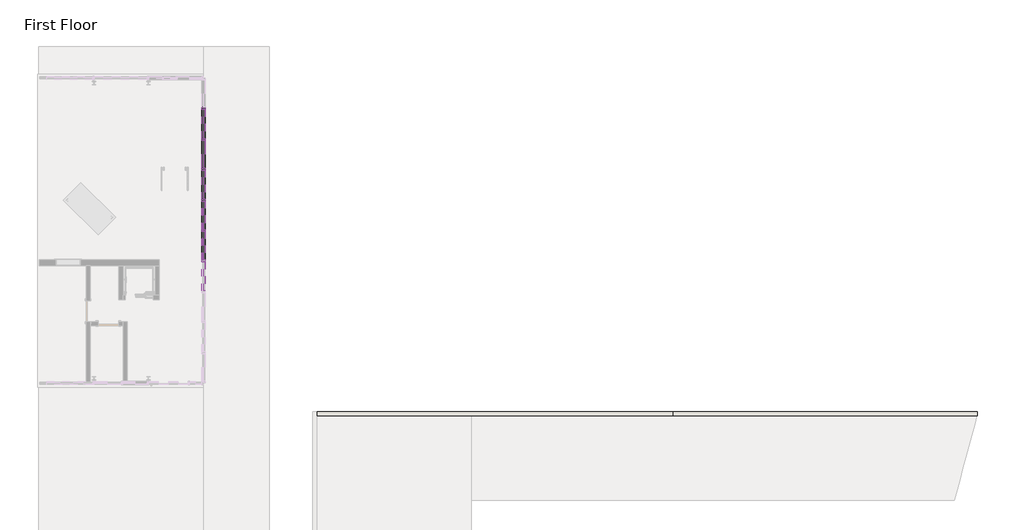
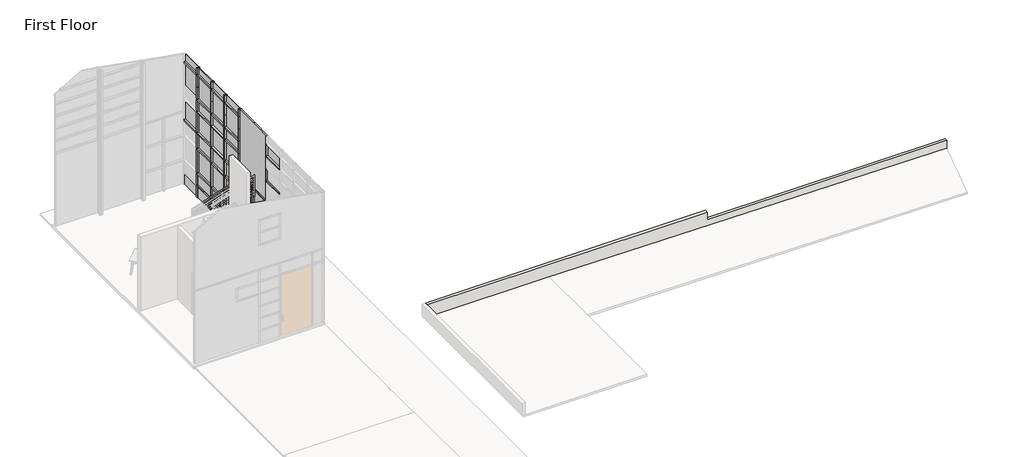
# One storey, part 8 of 9: 75 members, 38 plates, 1 wall.
"""IFC4 building model written with IfcOpenShell, lengths in millimetres."""

from ifc_helpers import new_model, si_unit, frame, origin, place, context, project, spatial, polyline, outline, extrude, transform, mapped, element, save
from components import rectangular_mullion_rectangular_mullion_1_1b5fb080, rectangular_mullion_rectangular_mullion_1_005b3240, rectangular_mullion_rectangular_mullion_1_a5d18ad9, rectangular_mullion_rectangular_mullion_1_91ce8450, rectangular_mullion_rectangular_mullion_1_2b49869a, rectangular_mullion_rectangular_mullion_1_6e77e263, rectangular_mullion_rectangular_mullion_1_8ba1deb4, rectangular_mullion_rectangular_mullion_1_02b6d1f6, rectangular_mullion_rectangular_mullion_1_448be1d6, rectangular_mullion_rectangular_mullion_1_630c41c5, rectangular_mullion_rectangular_mullion_1_239af10d, system_panel_glazed_dbfd7fa9, system_panel_glazed_aee83116, system_panel_glazed_5607b25a, system_panel_glazed_9c783b96, system_panel_glazed_ad6731cb, system_panel_glazed_1dde7ef2, system_panel_glazed_8867470d, system_panel_glazed_5c61df2e, system_panel_glazed_3129fd36, system_panel_glazed_d5e78176, system_panel_glazed_76777b0d, system_panel_glazed_04ba90b8, system_panel_glazed_5164f022, system_panel_glazed_9400200b, system_panel_glazed_5f70e372, system_panel_glazed_1b8c3ea5, system_panel_glazed_cd8bb020, system_panel_glazed_b0dd7fbc, system_panel_glazed_abc00b7b, system_panel_glazed_d8346a96, system_panel_glazed_3e8f1edd, system_panel_glazed_6d5517af, system_panel_glazed_7496b868, system_panel_solid_black_3651c355, system_panel_wood_7a0a0ada, system_panel_solid_white_af15567d, system_panel_wood_cbf360d3, system_panel_wood_a7d880d0, system_panel_wood_ad01dd95, system_panel_wood_72b3a4bc, system_panel_wood_62f12f2f, system_panel_wood_be4c5c0b, system_panel_wood_07726084

model = new_model("IFC4")

# Units and contexts
model_context = context("Model", 3, world=origin())
ifc_project = project(units=[si_unit("LENGTHUNIT", "METRE", prefix="MILLI")], contexts=[model_context])

# Site, building, storey
site = spatial("IfcSite", under=ifc_project)
building = spatial("IfcBuilding", under=site)
storey = spatial("IfcBuildingStorey", under=building, Name="First Floor", Elevation=0.0)

# Members
placement = place(None, origin())
rectangular_mullion_rectangular_mullion_1_shape = rectangular_mullion_rectangular_mullion_1_1b5fb080(model_context)
element("IfcMember", 1, ObjectType="Rectangular Mullion : Rectangular Mullion 1", at=placement, inside=storey, context=model_context, shape_type="MappedRepresentation", body=[
    mapped(rectangular_mullion_rectangular_mullion_1_shape, transform((8.2598336, 31131.3184583, 3223.7891834), x_axis=(0.0, 1.0, 0.0), y_axis=(1.0, 0.0, 0.0), z_axis=(0.0, 0.0, -1.0))),
])
element("IfcMember", 2, ObjectType="Rectangular Mullion : Rectangular Mullion 1", at=placement, inside=storey, context=model_context, shape_type="MappedRepresentation", body=[
    mapped(rectangular_mullion_rectangular_mullion_1_shape, transform((8.2598336, 33374.1384583, 3223.7891834), x_axis=(0.0, 1.0, 0.0), y_axis=(1.0, 0.0, 0.0), z_axis=(0.0, 0.0, -1.0))),
])
element("IfcMember", 3, ObjectType="Rectangular Mullion : Rectangular Mullion 1", at=placement, inside=storey, context=model_context, shape_type="MappedRepresentation", body=[
    mapped(rectangular_mullion_rectangular_mullion_1_shape, transform((8.2598336, 32278.1284583, 3223.7891834), x_axis=(0.0, 1.0, 0.0), y_axis=(1.0, 0.0, 0.0), z_axis=(0.0, 0.0, -1.0))),
])
element("IfcMember", 4, ObjectType="Rectangular Mullion : Rectangular Mullion 1", at=placement, inside=storey, context=model_context, shape_type="MappedRepresentation", body=[
    mapped(rectangular_mullion_rectangular_mullion_1_shape, transform((8.2598336, 34530.4734583, 3223.7891834), x_axis=(0.0, 1.0, 0.0), y_axis=(1.0, 0.0, 0.0), z_axis=(0.0, 0.0, -1.0))),
])
rectangular_mullion_rectangular_mullion_1_2_shape = rectangular_mullion_rectangular_mullion_1_005b3240(model_context)
element("IfcMember", 5, ObjectType="Rectangular Mullion : Rectangular Mullion 1", at=placement, inside=storey, context=model_context, shape_type="MappedRepresentation", body=[
    mapped(rectangular_mullion_rectangular_mullion_1_2_shape, transform((8.2598336, 31131.3184583, 6096.0), x_axis=(0.0, 1.0, 0.0), y_axis=(1.0, 0.0, 0.0), z_axis=(0.0, 0.0, -1.0))),
])
element("IfcMember", 6, ObjectType="Rectangular Mullion : Rectangular Mullion 1", at=placement, inside=storey, context=model_context, shape_type="MappedRepresentation", body=[
    mapped(rectangular_mullion_rectangular_mullion_1_2_shape, transform((8.2598336, 32278.1284583, 6096.0), x_axis=(0.0, 1.0, 0.0), y_axis=(1.0, 0.0, 0.0), z_axis=(0.0, 0.0, -1.0))),
])
element("IfcMember", 7, ObjectType="Rectangular Mullion : Rectangular Mullion 1", at=placement, inside=storey, context=model_context, shape_type="MappedRepresentation", body=[
    mapped(rectangular_mullion_rectangular_mullion_1_2_shape, transform((8.2598336, 33374.1384583, 6096.0), x_axis=(0.0, 1.0, 0.0), y_axis=(1.0, 0.0, 0.0), z_axis=(0.0, 0.0, -1.0))),
])
element("IfcMember", 8, ObjectType="Rectangular Mullion : Rectangular Mullion 1", at=placement, inside=storey, context=model_context, shape_type="MappedRepresentation", body=[
    mapped(rectangular_mullion_rectangular_mullion_1_2_shape, transform((8.2598336, 34530.4734583, 6096.0), x_axis=(0.0, 1.0, 0.0), y_axis=(1.0, 0.0, 0.0), z_axis=(0.0, 0.0, -1.0))),
])
rectangular_mullion_rectangular_mullion_1_3_shape = rectangular_mullion_rectangular_mullion_1_a5d18ad9(model_context)
element("IfcMember", 9, ObjectType="Rectangular Mullion : Rectangular Mullion 1", at=placement, inside=storey, context=model_context, shape_type="MappedRepresentation", body=[
    mapped(rectangular_mullion_rectangular_mullion_1_3_shape, transform((8.2598336, 31131.3184583, 2438.4), x_axis=(0.0, 1.0, 0.0), y_axis=(1.0, 0.0, 0.0), z_axis=(0.0, 0.0, -1.0))),
])
element("IfcMember", 10, ObjectType="Rectangular Mullion : Rectangular Mullion 1", at=placement, inside=storey, context=model_context, shape_type="MappedRepresentation", body=[
    mapped(rectangular_mullion_rectangular_mullion_1_3_shape, transform((8.2598336, 32278.1284583, 2438.4), x_axis=(0.0, 1.0, 0.0), y_axis=(1.0, 0.0, 0.0), z_axis=(0.0, 0.0, -1.0))),
])
element("IfcMember", 11, ObjectType="Rectangular Mullion : Rectangular Mullion 1", at=placement, inside=storey, context=model_context, shape_type="MappedRepresentation", body=[
    mapped(rectangular_mullion_rectangular_mullion_1_3_shape, transform((8.2598336, 33374.1384583, 2438.4), x_axis=(0.0, 1.0, 0.0), y_axis=(1.0, 0.0, 0.0), z_axis=(0.0, 0.0, -1.0))),
])
element("IfcMember", 12, ObjectType="Rectangular Mullion : Rectangular Mullion 1", at=placement, inside=storey, context=model_context, shape_type="MappedRepresentation", body=[
    mapped(rectangular_mullion_rectangular_mullion_1_3_shape, transform((8.2598336, 34530.4734583, 2438.4), x_axis=(0.0, 1.0, 0.0), y_axis=(1.0, 0.0, 0.0), z_axis=(0.0, 0.0, -1.0))),
])
rectangular_mullion_rectangular_mullion_1_4_shape = rectangular_mullion_rectangular_mullion_1_91ce8450(model_context)
element("IfcMember", 13, ObjectType="Rectangular Mullion : Rectangular Mullion 1", at=placement, inside=storey, context=model_context, shape_type="MappedRepresentation", body=[
    mapped(rectangular_mullion_rectangular_mullion_1_4_shape, transform((8.2598336, 30009.9084583, 2438.4), x_axis=(0.0, 1.0, 0.0), y_axis=(1.0, 0.0, 0.0), z_axis=(0.0, 0.0, -1.0))),
])
rectangular_mullion_rectangular_mullion_1_5_shape = rectangular_mullion_rectangular_mullion_1_2b49869a(model_context)
element("IfcMember", 14, ObjectType="Rectangular Mullion : Rectangular Mullion 1", at=placement, inside=storey, context=model_context, shape_type="MappedRepresentation", body=[
    mapped(rectangular_mullion_rectangular_mullion_1_5_shape, transform((8.2598336, 30009.9084583, 1219.2), x_axis=(0.0, 1.0, 0.0), y_axis=(1.0, 0.0, 0.0), z_axis=(0.0, 0.0, -1.0))),
])
element("IfcMember", 15, ObjectType="Rectangular Mullion : Rectangular Mullion 1", at=placement, inside=storey, context=model_context, shape_type="MappedRepresentation", body=[
    mapped(rectangular_mullion_rectangular_mullion_1_5_shape, transform((8.2598336, 31131.3184583, 1219.2), x_axis=(0.0, 1.0, 0.0), y_axis=(1.0, 0.0, 0.0), z_axis=(0.0, 0.0, -1.0))),
])
element("IfcMember", 16, ObjectType="Rectangular Mullion : Rectangular Mullion 1", at=placement, inside=storey, context=model_context, shape_type="MappedRepresentation", body=[
    mapped(rectangular_mullion_rectangular_mullion_1_5_shape, transform((8.2598336, 32278.1284583, 1219.2), x_axis=(0.0, 1.0, 0.0), y_axis=(1.0, 0.0, 0.0), z_axis=(0.0, 0.0, -1.0))),
])
element("IfcMember", 17, ObjectType="Rectangular Mullion : Rectangular Mullion 1", at=placement, inside=storey, context=model_context, shape_type="MappedRepresentation", body=[
    mapped(rectangular_mullion_rectangular_mullion_1_5_shape, transform((8.2598336, 33374.1384583, 1219.2), x_axis=(0.0, 1.0, 0.0), y_axis=(1.0, 0.0, 0.0), z_axis=(0.0, 0.0, -1.0))),
])
element("IfcMember", 18, ObjectType="Rectangular Mullion : Rectangular Mullion 1", at=placement, inside=storey, context=model_context, shape_type="MappedRepresentation", body=[
    mapped(rectangular_mullion_rectangular_mullion_1_5_shape, transform((8.2598336, 34530.4734583, 1219.2), x_axis=(0.0, 1.0, 0.0), y_axis=(1.0, 0.0, 0.0), z_axis=(0.0, 0.0, -1.0))),
])
rectangular_mullion_rectangular_mullion_1_6_shape = rectangular_mullion_rectangular_mullion_1_6e77e263(model_context)
element("IfcMember", 19, ObjectType="Rectangular Mullion : Rectangular Mullion 1", at=placement, inside=storey, context=model_context, shape_type="MappedRepresentation", body=[
    mapped(rectangular_mullion_rectangular_mullion_1_6_shape, transform((8.2598336, 31131.3184583, 0.0), x_axis=(0.0, 1.0, 0.0), y_axis=(1.0, 0.0, 0.0), z_axis=(0.0, 0.0, -1.0))),
])
element("IfcMember", 20, ObjectType="Rectangular Mullion : Rectangular Mullion 1", at=placement, inside=storey, context=model_context, shape_type="MappedRepresentation", body=[
    mapped(rectangular_mullion_rectangular_mullion_1_6_shape, transform((8.2598336, 33374.1384583, 0.0), x_axis=(0.0, 1.0, 0.0), y_axis=(1.0, 0.0, 0.0), z_axis=(0.0, 0.0, -1.0))),
])
element("IfcMember", 21, ObjectType="Rectangular Mullion : Rectangular Mullion 1", at=placement, inside=storey, context=model_context, shape_type="MappedRepresentation", body=[
    mapped(rectangular_mullion_rectangular_mullion_1_6_shape, transform((8.2598336, 30009.9084583, 0.0), x_axis=(0.0, 1.0, 0.0), y_axis=(1.0, 0.0, 0.0), z_axis=(0.0, 0.0, -1.0))),
])
element("IfcMember", 22, ObjectType="Rectangular Mullion : Rectangular Mullion 1", at=placement, inside=storey, context=model_context, shape_type="MappedRepresentation", body=[
    mapped(rectangular_mullion_rectangular_mullion_1_6_shape, transform((8.2598336, 32278.1284583, 0.0), x_axis=(0.0, 1.0, 0.0), y_axis=(1.0, 0.0, 0.0), z_axis=(0.0, 0.0, -1.0))),
])
element("IfcMember", 23, ObjectType="Rectangular Mullion : Rectangular Mullion 1", at=placement, inside=storey, context=model_context, shape_type="MappedRepresentation", body=[
    mapped(rectangular_mullion_rectangular_mullion_1_6_shape, transform((8.2598336, 34530.4734583, 0.0), x_axis=(0.0, 1.0, 0.0), y_axis=(1.0, 0.0, 0.0), z_axis=(0.0, 0.0, -1.0))),
])
element("IfcMember", 24, ObjectType="Rectangular Mullion : Rectangular Mullion 1", at=placement, inside=storey, context=model_context, shape_type="MappedRepresentation", body=[
    mapped(rectangular_mullion_rectangular_mullion_1_6_shape, transform((8.2598336, 30009.9084583, 609.6), x_axis=(0.0, 1.0, 0.0), y_axis=(1.0, 0.0, 0.0), z_axis=(0.0, 0.0, -1.0))),
])
element("IfcMember", 25, ObjectType="Rectangular Mullion : Rectangular Mullion 1", at=placement, inside=storey, context=model_context, shape_type="MappedRepresentation", body=[
    mapped(rectangular_mullion_rectangular_mullion_1_6_shape, transform((8.2598336, 31131.3184583, 609.6), x_axis=(0.0, 1.0, 0.0), y_axis=(1.0, 0.0, 0.0), z_axis=(0.0, 0.0, -1.0))),
])
element("IfcMember", 26, ObjectType="Rectangular Mullion : Rectangular Mullion 1", at=placement, inside=storey, context=model_context, shape_type="MappedRepresentation", body=[
    mapped(rectangular_mullion_rectangular_mullion_1_6_shape, transform((8.2598336, 32278.1284583, 609.6), x_axis=(0.0, 1.0, 0.0), y_axis=(1.0, 0.0, 0.0), z_axis=(0.0, 0.0, -1.0))),
])
element("IfcMember", 27, ObjectType="Rectangular Mullion : Rectangular Mullion 1", at=placement, inside=storey, context=model_context, shape_type="MappedRepresentation", body=[
    mapped(rectangular_mullion_rectangular_mullion_1_6_shape, transform((8.2598336, 33374.1384583, 609.6), x_axis=(0.0, 1.0, 0.0), y_axis=(1.0, 0.0, 0.0), z_axis=(0.0, 0.0, -1.0))),
])
element("IfcMember", 28, ObjectType="Rectangular Mullion : Rectangular Mullion 1", at=placement, inside=storey, context=model_context, shape_type="MappedRepresentation", body=[
    mapped(rectangular_mullion_rectangular_mullion_1_6_shape, transform((8.2598336, 34530.4734583, 609.6), x_axis=(0.0, 1.0, 0.0), y_axis=(1.0, 0.0, 0.0), z_axis=(0.0, 0.0, -1.0))),
])
element("IfcMember", 29, ObjectType="Rectangular Mullion : Rectangular Mullion 1", at=placement, inside=storey, context=model_context, shape_type="MappedRepresentation", body=[
    mapped(rectangular_mullion_rectangular_mullion_1_6_shape, transform((8.2598336, 28888.4984583, 4267.2), x_axis=(0.0, 1.0, 0.0), y_axis=(1.0, 0.0, 0.0), z_axis=(0.0, 0.0, -1.0))),
])
element("IfcMember", 30, ObjectType="Rectangular Mullion : Rectangular Mullion 1", at=placement, inside=storey, context=model_context, shape_type="MappedRepresentation", body=[
    mapped(rectangular_mullion_rectangular_mullion_1_6_shape, transform((8.2598336, 31131.3184583, 4267.2), x_axis=(0.0, 1.0, 0.0), y_axis=(1.0, 0.0, 0.0), z_axis=(0.0, 0.0, -1.0))),
])
element("IfcMember", 31, ObjectType="Rectangular Mullion : Rectangular Mullion 1", at=placement, inside=storey, context=model_context, shape_type="MappedRepresentation", body=[
    mapped(rectangular_mullion_rectangular_mullion_1_6_shape, transform((8.2598336, 32278.1284583, 4267.2), x_axis=(0.0, 1.0, 0.0), y_axis=(1.0, 0.0, 0.0), z_axis=(0.0, 0.0, -1.0))),
])
element("IfcMember", 32, ObjectType="Rectangular Mullion : Rectangular Mullion 1", at=placement, inside=storey, context=model_context, shape_type="MappedRepresentation", body=[
    mapped(rectangular_mullion_rectangular_mullion_1_6_shape, transform((8.2598336, 33374.1384583, 4267.2), x_axis=(0.0, 1.0, 0.0), y_axis=(1.0, 0.0, 0.0), z_axis=(0.0, 0.0, -1.0))),
])
element("IfcMember", 33, ObjectType="Rectangular Mullion : Rectangular Mullion 1", at=placement, inside=storey, context=model_context, shape_type="MappedRepresentation", body=[
    mapped(rectangular_mullion_rectangular_mullion_1_6_shape, transform((8.2598336, 34530.4734583, 4267.2), x_axis=(0.0, 1.0, 0.0), y_axis=(1.0, 0.0, 0.0), z_axis=(0.0, 0.0, -1.0))),
])
element("IfcMember", 34, ObjectType="Rectangular Mullion : Rectangular Mullion 1", at=placement, inside=storey, context=model_context, shape_type="MappedRepresentation", body=[
    mapped(rectangular_mullion_rectangular_mullion_1_6_shape, transform((8.2598336, 28888.4984583, 5486.4), x_axis=(0.0, 1.0, 0.0), y_axis=(1.0, 0.0, 0.0), z_axis=(0.0, 0.0, -1.0))),
])
element("IfcMember", 35, ObjectType="Rectangular Mullion : Rectangular Mullion 1", at=placement, inside=storey, context=model_context, shape_type="MappedRepresentation", body=[
    mapped(rectangular_mullion_rectangular_mullion_1_6_shape, transform((8.2598336, 31131.3184583, 4876.8), x_axis=(0.0, 1.0, 0.0), y_axis=(1.0, 0.0, 0.0), z_axis=(0.0, 0.0, -1.0))),
])
element("IfcMember", 36, ObjectType="Rectangular Mullion : Rectangular Mullion 1", at=placement, inside=storey, context=model_context, shape_type="MappedRepresentation", body=[
    mapped(rectangular_mullion_rectangular_mullion_1_6_shape, transform((8.2598336, 32278.1284583, 4876.8), x_axis=(0.0, 1.0, 0.0), y_axis=(1.0, 0.0, 0.0), z_axis=(0.0, 0.0, -1.0))),
])
element("IfcMember", 37, ObjectType="Rectangular Mullion : Rectangular Mullion 1", at=placement, inside=storey, context=model_context, shape_type="MappedRepresentation", body=[
    mapped(rectangular_mullion_rectangular_mullion_1_6_shape, transform((8.2598336, 33374.1384583, 4876.8), x_axis=(0.0, 1.0, 0.0), y_axis=(1.0, 0.0, 0.0), z_axis=(0.0, 0.0, -1.0))),
])
element("IfcMember", 38, ObjectType="Rectangular Mullion : Rectangular Mullion 1", at=placement, inside=storey, context=model_context, shape_type="MappedRepresentation", body=[
    mapped(rectangular_mullion_rectangular_mullion_1_6_shape, transform((8.2598336, 34530.4734583, 4876.8), x_axis=(0.0, 1.0, 0.0), y_axis=(1.0, 0.0, 0.0), z_axis=(0.0, 0.0, -1.0))),
])
element("IfcMember", 39, ObjectType="Rectangular Mullion : Rectangular Mullion 1", at=placement, inside=storey, context=model_context, shape_type="MappedRepresentation", body=[
    mapped(rectangular_mullion_rectangular_mullion_1_6_shape, transform((8.2598336, 31131.3184583, 5486.4), x_axis=(0.0, 1.0, 0.0), y_axis=(1.0, 0.0, 0.0), z_axis=(0.0, 0.0, -1.0))),
])
element("IfcMember", 40, ObjectType="Rectangular Mullion : Rectangular Mullion 1", at=placement, inside=storey, context=model_context, shape_type="MappedRepresentation", body=[
    mapped(rectangular_mullion_rectangular_mullion_1_6_shape, transform((8.2598336, 32278.1284583, 5486.4), x_axis=(0.0, 1.0, 0.0), y_axis=(1.0, 0.0, 0.0), z_axis=(0.0, 0.0, -1.0))),
])
element("IfcMember", 41, ObjectType="Rectangular Mullion : Rectangular Mullion 1", at=placement, inside=storey, context=model_context, shape_type="MappedRepresentation", body=[
    mapped(rectangular_mullion_rectangular_mullion_1_6_shape, transform((8.2598336, 33374.1384583, 5486.4), x_axis=(0.0, 1.0, 0.0), y_axis=(1.0, 0.0, 0.0), z_axis=(0.0, 0.0, -1.0))),
])
element("IfcMember", 42, ObjectType="Rectangular Mullion : Rectangular Mullion 1", at=placement, inside=storey, context=model_context, shape_type="MappedRepresentation", body=[
    mapped(rectangular_mullion_rectangular_mullion_1_6_shape, transform((8.2598336, 34530.4734583, 5486.4), x_axis=(0.0, 1.0, 0.0), y_axis=(1.0, 0.0, 0.0), z_axis=(0.0, 0.0, -1.0))),
])
rectangular_mullion_rectangular_mullion_1_7_shape = rectangular_mullion_rectangular_mullion_1_8ba1deb4(model_context)
element("IfcMember", 43, ObjectType="Rectangular Mullion : Rectangular Mullion 1", at=placement, inside=storey, context=model_context, shape_type="MappedRepresentation", body=[
    mapped(rectangular_mullion_rectangular_mullion_1_7_shape, transform((8.2598336, 33342.3884583, 3223.7891834), x_axis=(0.0, 0.0, 1.0), y_axis=(1.0, 0.0, 0.0), z_axis=(0.0, 1.0, 0.0))),
])
element("IfcMember", 44, ObjectType="Rectangular Mullion : Rectangular Mullion 1", at=placement, inside=storey, context=model_context, shape_type="MappedRepresentation", body=[
    mapped(rectangular_mullion_rectangular_mullion_1_7_shape, transform((8.2598336, 33342.3884583, 6096.0), x_axis=(0.0, 0.0, 1.0), y_axis=(1.0, 0.0, 0.0), z_axis=(0.0, 1.0, 0.0))),
])
element("IfcMember", 45, ObjectType="Rectangular Mullion : Rectangular Mullion 1", at=placement, inside=storey, context=model_context, shape_type="MappedRepresentation", body=[
    mapped(rectangular_mullion_rectangular_mullion_1_7_shape, transform((8.2598336, 33342.3884583, 4876.8), x_axis=(0.0, 0.0, 1.0), y_axis=(1.0, 0.0, 0.0), z_axis=(0.0, 1.0, 0.0))),
])
element("IfcMember", 46, ObjectType="Rectangular Mullion : Rectangular Mullion 1", at=placement, inside=storey, context=model_context, shape_type="MappedRepresentation", body=[
    mapped(rectangular_mullion_rectangular_mullion_1_7_shape, transform((8.2598336, 33342.3884583, 2438.4), x_axis=(0.0, 0.0, 1.0), y_axis=(1.0, 0.0, 0.0), z_axis=(0.0, 1.0, 0.0))),
])
element("IfcMember", 47, ObjectType="Rectangular Mullion : Rectangular Mullion 1", at=placement, inside=storey, context=model_context, shape_type="MappedRepresentation", body=[
    mapped(rectangular_mullion_rectangular_mullion_1_7_shape, transform((8.2598336, 33342.3884583, 1219.2), x_axis=(0.0, 0.0, 1.0), y_axis=(1.0, 0.0, 0.0), z_axis=(0.0, 1.0, 0.0))),
])
element("IfcMember", 48, ObjectType="Rectangular Mullion : Rectangular Mullion 1", at=placement, inside=storey, context=model_context, shape_type="MappedRepresentation", body=[
    mapped(rectangular_mullion_rectangular_mullion_1_7_shape, transform((8.2598336, 33342.3884583, 609.6), x_axis=(0.0, 0.0, 1.0), y_axis=(1.0, 0.0, 0.0), z_axis=(0.0, 1.0, 0.0))),
])
element("IfcMember", 49, ObjectType="Rectangular Mullion : Rectangular Mullion 1", at=placement, inside=storey, context=model_context, shape_type="MappedRepresentation", body=[
    mapped(rectangular_mullion_rectangular_mullion_1_7_shape, transform((8.2598336, 33342.3884583, 4267.2), x_axis=(0.0, 0.0, 1.0), y_axis=(1.0, 0.0, 0.0), z_axis=(0.0, 1.0, 0.0))),
])
rectangular_mullion_rectangular_mullion_1_8_shape = rectangular_mullion_rectangular_mullion_1_02b6d1f6(model_context)
element("IfcMember", 50, ObjectType="Rectangular Mullion : Rectangular Mullion 1", at=placement, inside=storey, context=model_context, shape_type="MappedRepresentation", body=[
    mapped(rectangular_mullion_rectangular_mullion_1_8_shape, transform((8.2598336, 32246.3784583, 3223.7891834), x_axis=(0.0, 0.0, 1.0), y_axis=(1.0, 0.0, 0.0), z_axis=(0.0, 1.0, 0.0))),
])
element("IfcMember", 51, ObjectType="Rectangular Mullion : Rectangular Mullion 1", at=placement, inside=storey, context=model_context, shape_type="MappedRepresentation", body=[
    mapped(rectangular_mullion_rectangular_mullion_1_8_shape, transform((8.2598336, 32246.3784583, 6096.0), x_axis=(0.0, 0.0, 1.0), y_axis=(1.0, 0.0, 0.0), z_axis=(0.0, 1.0, 0.0))),
])
element("IfcMember", 52, ObjectType="Rectangular Mullion : Rectangular Mullion 1", at=placement, inside=storey, context=model_context, shape_type="MappedRepresentation", body=[
    mapped(rectangular_mullion_rectangular_mullion_1_8_shape, transform((8.2598336, 32246.3784583, 4876.8), x_axis=(0.0, 0.0, 1.0), y_axis=(1.0, 0.0, 0.0), z_axis=(0.0, 1.0, 0.0))),
])
element("IfcMember", 53, ObjectType="Rectangular Mullion : Rectangular Mullion 1", at=placement, inside=storey, context=model_context, shape_type="MappedRepresentation", body=[
    mapped(rectangular_mullion_rectangular_mullion_1_8_shape, transform((8.2598336, 32246.3784583, 2438.4), x_axis=(0.0, 0.0, 1.0), y_axis=(1.0, 0.0, 0.0), z_axis=(0.0, 1.0, 0.0))),
])
element("IfcMember", 54, ObjectType="Rectangular Mullion : Rectangular Mullion 1", at=placement, inside=storey, context=model_context, shape_type="MappedRepresentation", body=[
    mapped(rectangular_mullion_rectangular_mullion_1_8_shape, transform((8.2598336, 32246.3784583, 1219.2), x_axis=(0.0, 0.0, 1.0), y_axis=(1.0, 0.0, 0.0), z_axis=(0.0, 1.0, 0.0))),
])
element("IfcMember", 55, ObjectType="Rectangular Mullion : Rectangular Mullion 1", at=placement, inside=storey, context=model_context, shape_type="MappedRepresentation", body=[
    mapped(rectangular_mullion_rectangular_mullion_1_8_shape, transform((8.2598336, 32246.3784583, 609.6), x_axis=(0.0, 0.0, 1.0), y_axis=(1.0, 0.0, 0.0), z_axis=(0.0, 1.0, 0.0))),
])
element("IfcMember", 56, ObjectType="Rectangular Mullion : Rectangular Mullion 1", at=placement, inside=storey, context=model_context, shape_type="MappedRepresentation", body=[
    mapped(rectangular_mullion_rectangular_mullion_1_8_shape, transform((8.2598336, 28856.7484583, 4267.2), x_axis=(0.0, 0.0, 1.0), y_axis=(1.0, 0.0, 0.0), z_axis=(0.0, 1.0, 0.0))),
])
element("IfcMember", 57, ObjectType="Rectangular Mullion : Rectangular Mullion 1", at=placement, inside=storey, context=model_context, shape_type="MappedRepresentation", body=[
    mapped(rectangular_mullion_rectangular_mullion_1_8_shape, transform((8.2598336, 32246.3784583, 4267.2), x_axis=(0.0, 0.0, 1.0), y_axis=(1.0, 0.0, 0.0), z_axis=(0.0, 1.0, 0.0))),
])
element("IfcMember", 58, ObjectType="Rectangular Mullion : Rectangular Mullion 1", at=placement, inside=storey, context=model_context, shape_type="MappedRepresentation", body=[
    mapped(rectangular_mullion_rectangular_mullion_1_8_shape, transform((8.2598336, 28856.7484583, 5486.4), x_axis=(0.0, 0.0, 1.0), y_axis=(1.0, 0.0, 0.0), z_axis=(0.0, 1.0, 0.0))),
])
rectangular_mullion_rectangular_mullion_1_9_shape = rectangular_mullion_rectangular_mullion_1_448be1d6(model_context)
element("IfcMember", 59, ObjectType="Rectangular Mullion : Rectangular Mullion 1", at=placement, inside=storey, context=model_context, shape_type="MappedRepresentation", body=[
    mapped(rectangular_mullion_rectangular_mullion_1_9_shape, transform((8.2598336, 35585.2084583, 3223.7891834), x_axis=(0.0, 0.0, 1.0), y_axis=(1.0, 0.0, 0.0), z_axis=(0.0, 1.0, 0.0))),
])
element("IfcMember", 60, ObjectType="Rectangular Mullion : Rectangular Mullion 1", at=placement, inside=storey, context=model_context, shape_type="MappedRepresentation", body=[
    mapped(rectangular_mullion_rectangular_mullion_1_9_shape, transform((8.2598336, 35585.2084583, 6096.0), x_axis=(0.0, 0.0, 1.0), y_axis=(1.0, 0.0, 0.0), z_axis=(0.0, 1.0, 0.0))),
])
rectangular_mullion_rectangular_mullion_1_10_shape = rectangular_mullion_rectangular_mullion_1_630c41c5(model_context)
element("IfcMember", 61, ObjectType="Rectangular Mullion : Rectangular Mullion 1", at=placement, inside=storey, context=model_context, shape_type="MappedRepresentation", body=[
    mapped(rectangular_mullion_rectangular_mullion_1_10_shape, transform((8.2598336, 29978.1584583, 3223.7891834), x_axis=(0.0, 0.0, 1.0), y_axis=(1.0, 0.0, 0.0), z_axis=(0.0, 1.0, 0.0))),
])
element("IfcMember", 62, ObjectType="Rectangular Mullion : Rectangular Mullion 1", at=placement, inside=storey, context=model_context, shape_type="MappedRepresentation", body=[
    mapped(rectangular_mullion_rectangular_mullion_1_10_shape, transform((8.2598336, 31099.5684583, 3223.7891834), x_axis=(0.0, 0.0, 1.0), y_axis=(1.0, 0.0, 0.0), z_axis=(0.0, 1.0, 0.0))),
])
element("IfcMember", 63, ObjectType="Rectangular Mullion : Rectangular Mullion 1", at=placement, inside=storey, context=model_context, shape_type="MappedRepresentation", body=[
    mapped(rectangular_mullion_rectangular_mullion_1_10_shape, transform((8.2598336, 29978.1584583, 2438.4), x_axis=(0.0, 0.0, 1.0), y_axis=(1.0, 0.0, 0.0), z_axis=(0.0, 1.0, 0.0))),
])
element("IfcMember", 64, ObjectType="Rectangular Mullion : Rectangular Mullion 1", at=placement, inside=storey, context=model_context, shape_type="MappedRepresentation", body=[
    mapped(rectangular_mullion_rectangular_mullion_1_10_shape, transform((8.2598336, 31099.5684583, 2438.4), x_axis=(0.0, 0.0, 1.0), y_axis=(1.0, 0.0, 0.0), z_axis=(0.0, 1.0, 0.0))),
])
element("IfcMember", 65, ObjectType="Rectangular Mullion : Rectangular Mullion 1", at=placement, inside=storey, context=model_context, shape_type="MappedRepresentation", body=[
    mapped(rectangular_mullion_rectangular_mullion_1_10_shape, transform((8.2598336, 29978.1584583, 1219.2), x_axis=(0.0, 0.0, 1.0), y_axis=(1.0, 0.0, 0.0), z_axis=(0.0, 1.0, 0.0))),
])
element("IfcMember", 66, ObjectType="Rectangular Mullion : Rectangular Mullion 1", at=placement, inside=storey, context=model_context, shape_type="MappedRepresentation", body=[
    mapped(rectangular_mullion_rectangular_mullion_1_10_shape, transform((8.2598336, 31099.5684583, 1219.2), x_axis=(0.0, 0.0, 1.0), y_axis=(1.0, 0.0, 0.0), z_axis=(0.0, 1.0, 0.0))),
])
element("IfcMember", 67, ObjectType="Rectangular Mullion : Rectangular Mullion 1", at=placement, inside=storey, context=model_context, shape_type="MappedRepresentation", body=[
    mapped(rectangular_mullion_rectangular_mullion_1_10_shape, transform((8.2598336, 29978.1584583, 609.6), x_axis=(0.0, 0.0, 1.0), y_axis=(1.0, 0.0, 0.0), z_axis=(0.0, 1.0, 0.0))),
])
element("IfcMember", 68, ObjectType="Rectangular Mullion : Rectangular Mullion 1", at=placement, inside=storey, context=model_context, shape_type="MappedRepresentation", body=[
    mapped(rectangular_mullion_rectangular_mullion_1_10_shape, transform((8.2598336, 31099.5684583, 609.6), x_axis=(0.0, 0.0, 1.0), y_axis=(1.0, 0.0, 0.0), z_axis=(0.0, 1.0, 0.0))),
])
rectangular_mullion_rectangular_mullion_1_11_shape = rectangular_mullion_rectangular_mullion_1_239af10d(model_context)
element("IfcMember", 69, ObjectType="Rectangular Mullion : Rectangular Mullion 1", at=placement, inside=storey, context=model_context, shape_type="MappedRepresentation", body=[
    mapped(rectangular_mullion_rectangular_mullion_1_11_shape, transform((8.2598336, 34498.7234583, 3223.7891834), x_axis=(0.0, 0.0, 1.0), y_axis=(1.0, 0.0, 0.0), z_axis=(0.0, 1.0, 0.0))),
])
element("IfcMember", 70, ObjectType="Rectangular Mullion : Rectangular Mullion 1", at=placement, inside=storey, context=model_context, shape_type="MappedRepresentation", body=[
    mapped(rectangular_mullion_rectangular_mullion_1_11_shape, transform((8.2598336, 34498.7234583, 6096.0), x_axis=(0.0, 0.0, 1.0), y_axis=(1.0, 0.0, 0.0), z_axis=(0.0, 1.0, 0.0))),
])
element("IfcMember", 71, ObjectType="Rectangular Mullion : Rectangular Mullion 1", at=placement, inside=storey, context=model_context, shape_type="MappedRepresentation", body=[
    mapped(rectangular_mullion_rectangular_mullion_1_11_shape, transform((8.2598336, 34498.7234583, 4876.8), x_axis=(0.0, 0.0, 1.0), y_axis=(1.0, 0.0, 0.0), z_axis=(0.0, 1.0, 0.0))),
])
element("IfcMember", 72, ObjectType="Rectangular Mullion : Rectangular Mullion 1", at=placement, inside=storey, context=model_context, shape_type="MappedRepresentation", body=[
    mapped(rectangular_mullion_rectangular_mullion_1_11_shape, transform((8.2598336, 34498.7234583, 2438.4), x_axis=(0.0, 0.0, 1.0), y_axis=(1.0, 0.0, 0.0), z_axis=(0.0, 1.0, 0.0))),
])
element("IfcMember", 73, ObjectType="Rectangular Mullion : Rectangular Mullion 1", at=placement, inside=storey, context=model_context, shape_type="MappedRepresentation", body=[
    mapped(rectangular_mullion_rectangular_mullion_1_11_shape, transform((8.2598336, 34498.7234583, 1219.2), x_axis=(0.0, 0.0, 1.0), y_axis=(1.0, 0.0, 0.0), z_axis=(0.0, 1.0, 0.0))),
])
element("IfcMember", 74, ObjectType="Rectangular Mullion : Rectangular Mullion 1", at=placement, inside=storey, context=model_context, shape_type="MappedRepresentation", body=[
    mapped(rectangular_mullion_rectangular_mullion_1_11_shape, transform((8.2598336, 34498.7234583, 609.6), x_axis=(0.0, 0.0, 1.0), y_axis=(1.0, 0.0, 0.0), z_axis=(0.0, 1.0, 0.0))),
])
element("IfcMember", 75, ObjectType="Rectangular Mullion : Rectangular Mullion 1", at=placement, inside=storey, context=model_context, shape_type="MappedRepresentation", body=[
    mapped(rectangular_mullion_rectangular_mullion_1_11_shape, transform((8.2598336, 34498.7234583, 4267.2), x_axis=(0.0, 0.0, 1.0), y_axis=(1.0, 0.0, 0.0), z_axis=(0.0, 1.0, 0.0))),
])

# Plates
system_panel_glazed_shape = system_panel_glazed_dbfd7fa9(model_context)
element("IfcPlate", 76, ObjectType="System Panel : Glazed", at=placement, inside=storey, context=model_context, shape_type="MappedRepresentation", body=[
    mapped(system_panel_glazed_shape, transform((8.2598336, 31704.7234583, 3255.5391834), x_axis=(0.0, 1.0, 0.0), y_axis=(-1.0, 0.0, 0.0), z_axis=(0.0, 0.0, 1.0))),
])
system_panel_glazed_2_shape = system_panel_glazed_aee83116(model_context)
element("IfcPlate", 77, ObjectType="System Panel : Glazed", at=placement, inside=storey, context=model_context, shape_type="MappedRepresentation", body=[
    mapped(system_panel_glazed_2_shape, transform((8.2598336, 33952.3059583, 3255.5391834), x_axis=(0.0, 1.0, 0.0), y_axis=(-1.0, 0.0, 0.0), z_axis=(0.0, 0.0, 1.0))),
])
system_panel_glazed_3_shape = system_panel_glazed_5607b25a(model_context)
element("IfcPlate", 78, ObjectType="System Panel : Glazed", at=placement, inside=storey, context=model_context, shape_type="MappedRepresentation", body=[
    mapped(system_panel_glazed_3_shape, transform((8.2598336, 32826.1334583, 3255.5391834), x_axis=(0.0, 1.0, 0.0), y_axis=(-1.0, 0.0, 0.0), z_axis=(0.0, 0.0, 1.0))),
])
system_panel_glazed_4_shape = system_panel_glazed_9c783b96(model_context)
element("IfcPlate", 79, ObjectType="System Panel : Glazed", at=placement, inside=storey, context=model_context, shape_type="MappedRepresentation", body=[
    mapped(system_panel_glazed_4_shape, transform((8.2598336, 35073.7159583, 3255.5391834), x_axis=(0.0, 1.0, 0.0), y_axis=(-1.0, 0.0, 0.0), z_axis=(0.0, 0.0, 1.0))),
])
system_panel_glazed_5_shape = system_panel_glazed_ad6731cb(model_context)
element("IfcPlate", 80, ObjectType="System Panel : Glazed", at=placement, inside=storey, context=model_context, shape_type="MappedRepresentation", body=[
    mapped(system_panel_glazed_5_shape, transform((8.2598336, 35073.7159583, 6127.75), x_axis=(0.0, 1.0, 0.0), y_axis=(-1.0, 0.0, 0.0), z_axis=(0.0, 0.0, 1.0))),
])
system_panel_glazed_6_shape = system_panel_glazed_1dde7ef2(model_context)
element("IfcPlate", 81, ObjectType="System Panel : Glazed", at=placement, inside=storey, context=model_context, shape_type="MappedRepresentation", body=[
    mapped(system_panel_glazed_6_shape, transform((8.2598336, 33952.3059583, 6127.75), x_axis=(0.0, 1.0, 0.0), y_axis=(-1.0, 0.0, 0.0), z_axis=(0.0, 0.0, 1.0))),
])
system_panel_glazed_7_shape = system_panel_glazed_8867470d(model_context)
element("IfcPlate", 82, ObjectType="System Panel : Glazed", at=placement, inside=storey, context=model_context, shape_type="MappedRepresentation", body=[
    mapped(system_panel_glazed_7_shape, transform((8.2598336, 32826.1334583, 6127.75), x_axis=(0.0, 1.0, 0.0), y_axis=(-1.0, 0.0, 0.0), z_axis=(0.0, 0.0, 1.0))),
])
system_panel_glazed_8_shape = system_panel_glazed_5c61df2e(model_context)
element("IfcPlate", 83, ObjectType="System Panel : Glazed", at=placement, inside=storey, context=model_context, shape_type="MappedRepresentation", body=[
    mapped(system_panel_glazed_8_shape, transform((8.2598336, 31704.7234583, 6127.75), x_axis=(0.0, 1.0, 0.0), y_axis=(-1.0, 0.0, 0.0), z_axis=(0.0, 0.0, 1.0))),
])
system_panel_glazed_9_shape = system_panel_glazed_3129fd36(model_context)
element("IfcPlate", 84, ObjectType="System Panel : Glazed", at=placement, inside=storey, context=model_context, shape_type="MappedRepresentation", body=[
    mapped(system_panel_glazed_9_shape, transform((8.2598336, 29449.2034583, 2470.15), x_axis=(0.0, 1.0, 0.0), y_axis=(-1.0, 0.0, 0.0), z_axis=(0.0, 0.0, 1.0))),
])
element("IfcPlate", 85, ObjectType="System Panel : Glazed", at=placement, inside=storey, context=model_context, shape_type="MappedRepresentation", body=[
    mapped(system_panel_glazed_9_shape, transform((8.2598336, 30570.6134583, 2470.15), x_axis=(0.0, 1.0, 0.0), y_axis=(-1.0, 0.0, 0.0), z_axis=(0.0, 0.0, 1.0))),
])
system_panel_glazed_10_shape = system_panel_glazed_d5e78176(model_context)
element("IfcPlate", 86, ObjectType="System Panel : Glazed", at=placement, inside=storey, context=model_context, shape_type="MappedRepresentation", body=[
    mapped(system_panel_glazed_10_shape, transform((8.2598336, 31704.7234583, 2470.15), x_axis=(0.0, 1.0, 0.0), y_axis=(-1.0, 0.0, 0.0), z_axis=(0.0, 0.0, 1.0))),
])
system_panel_glazed_11_shape = system_panel_glazed_76777b0d(model_context)
element("IfcPlate", 87, ObjectType="System Panel : Glazed", at=placement, inside=storey, context=model_context, shape_type="MappedRepresentation", body=[
    mapped(system_panel_glazed_11_shape, transform((8.2598336, 32826.1334583, 2470.15), x_axis=(0.0, 1.0, 0.0), y_axis=(-1.0, 0.0, 0.0), z_axis=(0.0, 0.0, 1.0))),
])
system_panel_glazed_12_shape = system_panel_glazed_04ba90b8(model_context)
element("IfcPlate", 88, ObjectType="System Panel : Glazed", at=placement, inside=storey, context=model_context, shape_type="MappedRepresentation", body=[
    mapped(system_panel_glazed_12_shape, transform((8.2598336, 33952.3059583, 2470.15), x_axis=(0.0, 1.0, 0.0), y_axis=(-1.0, 0.0, 0.0), z_axis=(0.0, 0.0, 1.0))),
])
system_panel_glazed_13_shape = system_panel_glazed_5164f022(model_context)
element("IfcPlate", 89, ObjectType="System Panel : Glazed", at=placement, inside=storey, context=model_context, shape_type="MappedRepresentation", body=[
    mapped(system_panel_glazed_13_shape, transform((8.2598336, 31704.7234583, 4298.95), x_axis=(0.0, 1.0, 0.0), y_axis=(-1.0, 0.0, 0.0), z_axis=(0.0, 0.0, 1.0))),
])
element("IfcPlate", 90, ObjectType="System Panel : Glazed", at=placement, inside=storey, context=model_context, shape_type="MappedRepresentation", body=[
    mapped(system_panel_glazed_13_shape, transform((8.2598336, 28315.0934583, 5518.15), x_axis=(0.0, 1.0, 0.0), y_axis=(-1.0, 0.0, 0.0), z_axis=(0.0, 0.0, 1.0))),
])
system_panel_glazed_14_shape = system_panel_glazed_9400200b(model_context)
element("IfcPlate", 91, ObjectType="System Panel : Glazed", at=placement, inside=storey, context=model_context, shape_type="MappedRepresentation", body=[
    mapped(system_panel_glazed_14_shape, transform((8.2598336, 31704.7234583, 4908.55), x_axis=(0.0, 1.0, 0.0), y_axis=(-1.0, 0.0, 0.0), z_axis=(0.0, 0.0, 1.0))),
])
system_panel_glazed_15_shape = system_panel_glazed_5f70e372(model_context)
element("IfcPlate", 92, ObjectType="System Panel : Glazed", at=placement, inside=storey, context=model_context, shape_type="MappedRepresentation", body=[
    mapped(system_panel_glazed_15_shape, transform((8.2598336, 32826.1334583, 1250.95), x_axis=(0.0, 1.0, 0.0), y_axis=(-1.0, 0.0, 0.0), z_axis=(0.0, 0.0, 1.0))),
])
system_panel_glazed_16_shape = system_panel_glazed_1b8c3ea5(model_context)
element("IfcPlate", 93, ObjectType="System Panel : Glazed", at=placement, inside=storey, context=model_context, shape_type="MappedRepresentation", body=[
    mapped(system_panel_glazed_16_shape, transform((8.2598336, 31704.7234583, 1250.95), x_axis=(0.0, 1.0, 0.0), y_axis=(-1.0, 0.0, 0.0), z_axis=(0.0, 0.0, 1.0))),
])
system_panel_glazed_17_shape = system_panel_glazed_cd8bb020(model_context)
element("IfcPlate", 94, ObjectType="System Panel : Glazed", at=placement, inside=storey, context=model_context, shape_type="MappedRepresentation", body=[
    mapped(system_panel_glazed_17_shape, transform((8.2598336, 33952.3059583, 4298.95), x_axis=(0.0, 1.0, 0.0), y_axis=(-1.0, 0.0, 0.0), z_axis=(0.0, 0.0, 1.0))),
])
system_panel_glazed_18_shape = system_panel_glazed_b0dd7fbc(model_context)
element("IfcPlate", 95, ObjectType="System Panel : Glazed", at=placement, inside=storey, context=model_context, shape_type="MappedRepresentation", body=[
    mapped(system_panel_glazed_18_shape, transform((8.2598336, 32826.1334583, 4298.95), x_axis=(0.0, 1.0, 0.0), y_axis=(-1.0, 0.0, 0.0), z_axis=(0.0, 0.0, 1.0))),
])
system_panel_glazed_19_shape = system_panel_glazed_abc00b7b(model_context)
element("IfcPlate", 96, ObjectType="System Panel : Glazed", at=placement, inside=storey, context=model_context, shape_type="MappedRepresentation", body=[
    mapped(system_panel_glazed_19_shape, transform((8.2598336, 32826.1334583, 4908.55), x_axis=(0.0, 1.0, 0.0), y_axis=(-1.0, 0.0, 0.0), z_axis=(0.0, 0.0, 1.0))),
])
system_panel_glazed_20_shape = system_panel_glazed_d8346a96(model_context)
element("IfcPlate", 97, ObjectType="System Panel : Glazed", at=placement, inside=storey, context=model_context, shape_type="MappedRepresentation", body=[
    mapped(system_panel_glazed_20_shape, transform((8.2598336, 33952.3059583, 4908.55), x_axis=(0.0, 1.0, 0.0), y_axis=(-1.0, 0.0, 0.0), z_axis=(0.0, 0.0, 1.0))),
])
system_panel_glazed_21_shape = system_panel_glazed_3e8f1edd(model_context)
element("IfcPlate", 98, ObjectType="System Panel : Glazed", at=placement, inside=storey, context=model_context, shape_type="MappedRepresentation", body=[
    mapped(system_panel_glazed_21_shape, transform((8.2598336, 35073.7159583, 4908.55), x_axis=(0.0, 1.0, 0.0), y_axis=(-1.0, 0.0, 0.0), z_axis=(0.0, 0.0, 1.0))),
])
system_panel_glazed_22_shape = system_panel_glazed_6d5517af(model_context)
element("IfcPlate", 99, ObjectType="System Panel : Glazed", at=placement, inside=storey, context=model_context, shape_type="MappedRepresentation", body=[
    mapped(system_panel_glazed_22_shape, transform((8.2598336, 29449.2034583, 1250.95), x_axis=(0.0, 1.0, 0.0), y_axis=(-1.0, 0.0, 0.0), z_axis=(0.0, 0.0, 1.0))),
])
element("IfcPlate", 100, ObjectType="System Panel : Glazed", at=placement, inside=storey, context=model_context, shape_type="MappedRepresentation", body=[
    mapped(system_panel_glazed_22_shape, transform((8.2598336, 30570.6134583, 1250.95), x_axis=(0.0, 1.0, 0.0), y_axis=(-1.0, 0.0, 0.0), z_axis=(0.0, 0.0, 1.0))),
])
system_panel_glazed_23_shape = system_panel_glazed_7496b868(model_context)
element("IfcPlate", 101, ObjectType="System Panel : Glazed", at=placement, inside=storey, context=model_context, shape_type="MappedRepresentation", body=[
    mapped(system_panel_glazed_23_shape, transform((8.2598336, 33952.3059583, 1250.95), x_axis=(0.0, 1.0, 0.0), y_axis=(-1.0, 0.0, 0.0), z_axis=(0.0, 0.0, 1.0))),
])
system_panel_solid_black_shape = system_panel_solid_black_3651c355(model_context)
element("IfcPlate", 102, ObjectType="System Panel : Solid - Black", at=placement, inside=storey, context=model_context, shape_type="MappedRepresentation", body=[
    mapped(system_panel_solid_black_shape, transform((8.2598336, 30009.9084583, 3255.5391834), x_axis=(0.0, 1.0, 0.0), y_axis=(-1.0, 0.0, 0.0), z_axis=(0.0, 0.0, 1.0))),
])
system_panel_wood_shape = system_panel_wood_7a0a0ada(model_context)
element("IfcPlate", 103, ObjectType="System Panel : Wood", at=placement, inside=storey, context=model_context, shape_type="MappedRepresentation", body=[
    mapped(system_panel_wood_shape, transform((8.2598336, 32826.1334583, 0.0), x_axis=(0.0, 1.0, 0.0), y_axis=(-1.0, 0.0, 0.0), z_axis=(0.0, 0.0, 1.0))),
])
system_panel_solid_white_shape = system_panel_solid_white_af15567d(model_context)
element("IfcPlate", 104, ObjectType="System Panel : Wood", at=placement, inside=storey, context=model_context, shape_type="MappedRepresentation", body=[
    mapped(system_panel_solid_white_shape, transform((8.2598336, 31704.7234583, 641.35), x_axis=(0.0, 1.0, 0.0), y_axis=(-1.0, 0.0, 0.0), z_axis=(0.0, 0.0, 1.0))),
])
system_panel_wood_2_shape = system_panel_wood_cbf360d3(model_context)
element("IfcPlate", 105, ObjectType="System Panel : Wood", at=placement, inside=storey, context=model_context, shape_type="MappedRepresentation", body=[
    mapped(system_panel_wood_2_shape, transform((8.2598336, 32826.1334583, 641.35), x_axis=(0.0, 1.0, 0.0), y_axis=(-1.0, 0.0, 0.0), z_axis=(0.0, 0.0, 1.0))),
])
system_panel_wood_3_shape = system_panel_wood_a7d880d0(model_context)
element("IfcPlate", 106, ObjectType="System Panel : Wood", at=placement, inside=storey, context=model_context, shape_type="MappedRepresentation", body=[
    mapped(system_panel_wood_3_shape, transform((8.2598336, 31704.7234583, 0.0), x_axis=(0.0, 1.0, 0.0), y_axis=(-1.0, 0.0, 0.0), z_axis=(0.0, 0.0, 1.0))),
])
system_panel_wood_4_shape = system_panel_wood_ad01dd95(model_context)
element("IfcPlate", 107, ObjectType="System Panel : Wood", at=placement, inside=storey, context=model_context, shape_type="MappedRepresentation", body=[
    mapped(system_panel_wood_4_shape, transform((8.2598336, 33952.3059583, 0.0), x_axis=(0.0, 1.0, 0.0), y_axis=(-1.0, 0.0, 0.0), z_axis=(0.0, 0.0, 1.0))),
])
system_panel_wood_5_shape = system_panel_wood_72b3a4bc(model_context)
element("IfcPlate", 108, ObjectType="System Panel : Wood", at=placement, inside=storey, context=model_context, shape_type="MappedRepresentation", body=[
    mapped(system_panel_wood_5_shape, transform((8.2598336, 29449.2034583, 0.0), x_axis=(0.0, 1.0, 0.0), y_axis=(-1.0, 0.0, 0.0), z_axis=(0.0, 0.0, 1.0))),
])
element("IfcPlate", 109, ObjectType="System Panel : Wood", at=placement, inside=storey, context=model_context, shape_type="MappedRepresentation", body=[
    mapped(system_panel_wood_5_shape, transform((8.2598336, 30570.6134583, 0.0), x_axis=(0.0, 1.0, 0.0), y_axis=(-1.0, 0.0, 0.0), z_axis=(0.0, 0.0, 1.0))),
])
system_panel_wood_6_shape = system_panel_wood_62f12f2f(model_context)
element("IfcPlate", 110, ObjectType="System Panel : Wood", at=placement, inside=storey, context=model_context, shape_type="MappedRepresentation", body=[
    mapped(system_panel_wood_6_shape, transform((8.2598336, 35073.7159583, 0.0), x_axis=(0.0, 1.0, 0.0), y_axis=(-1.0, 0.0, 0.0), z_axis=(0.0, 0.0, 1.0))),
])
system_panel_wood_7_shape = system_panel_wood_be4c5c0b(model_context)
element("IfcPlate", 111, ObjectType="System Panel : Wood", at=placement, inside=storey, context=model_context, shape_type="MappedRepresentation", body=[
    mapped(system_panel_wood_7_shape, transform((8.2598336, 33952.3059583, 641.35), x_axis=(0.0, 1.0, 0.0), y_axis=(-1.0, 0.0, 0.0), z_axis=(0.0, 0.0, 1.0))),
])
system_panel_wood_8_shape = system_panel_wood_07726084(model_context)
element("IfcPlate", 112, ObjectType="System Panel : Wood", at=placement, inside=storey, context=model_context, shape_type="MappedRepresentation", body=[
    mapped(system_panel_wood_8_shape, transform((8.2598336, 29449.2034583, 641.35), x_axis=(0.0, 1.0, 0.0), y_axis=(-1.0, 0.0, 0.0), z_axis=(0.0, 0.0, 1.0))),
])
element("IfcPlate", 113, ObjectType="System Panel : Wood", at=placement, inside=storey, context=model_context, shape_type="MappedRepresentation", body=[
    mapped(system_panel_wood_8_shape, transform((8.2598336, 30570.6134583, 641.35), x_axis=(0.0, 1.0, 0.0), y_axis=(-1.0, 0.0, 0.0), z_axis=(0.0, 0.0, 1.0))),
])

# Wall
element("IfcWall", 114, ObjectType="Generic Wall - 6\" Wood", at=placement, inside=storey, context=model_context, shape_type="SweptSolid", body=[
    extrude(outline(polyline([(-1012.5442353, 28643.5956418), (-305.1136093, 28643.5956418), (-305.1136093, 17365.9956418), (76.2, 17365.9956418), (76.2, 4209.4309395), (-533.4, 4209.4309395), (-533.4, 9924.4309395), (-1012.5442353, 28643.5956418)])), frame((0.0, 23152.2704791, 0.0), z_axis=(0.0, 1.0, 0.0), x_axis=(0.0, 0.0, 1.0)), (0.0, 0.0, 1.0), 152.4),
])

save(model, "model.ifc")
